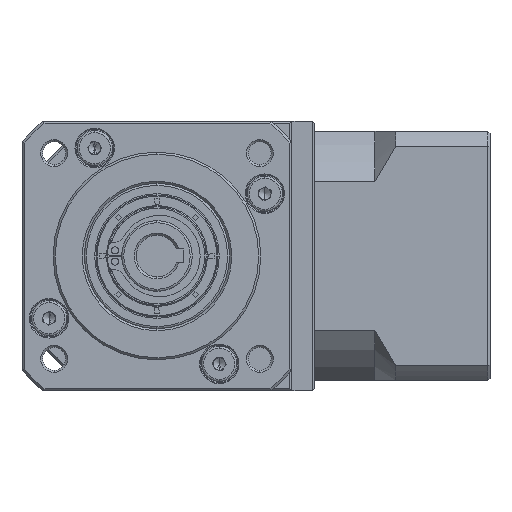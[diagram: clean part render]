
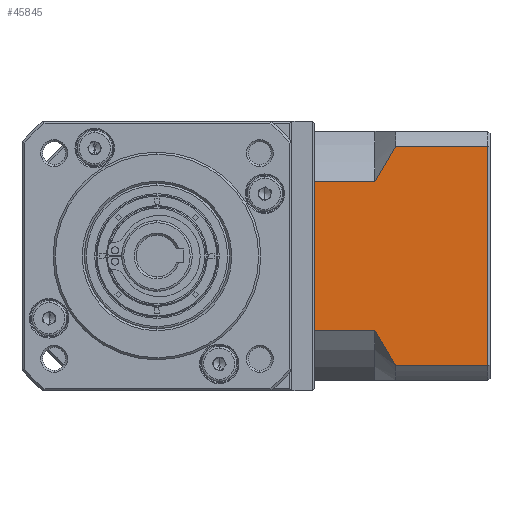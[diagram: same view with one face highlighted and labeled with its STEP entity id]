
A CAD part, left-side view. The second image highlights one B-rep face of the part: STEP entity #45845.
In plain terms, the highlighted planar face has unit normal (-1, 0, 0).
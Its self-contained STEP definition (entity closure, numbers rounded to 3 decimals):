
#431 = VERTEX_POINT ( 'NONE', #102921 ) ;
#2982 = VERTEX_POINT ( 'NONE', #44927 ) ;
#3499 = ORIENTED_EDGE ( 'NONE', *, *, #84054, .F. ) ;
#5453 = VECTOR ( 'NONE', #119927, 1000. ) ;
#6574 = VERTEX_POINT ( 'NONE', #84144 ) ;
#8297 = CARTESIAN_POINT ( 'NONE',  ( 16.666, -15.143, 137.798 ) ) ;
#8868 = VECTOR ( 'NONE', #128500, 1000. ) ;
#11642 = CARTESIAN_POINT ( 'NONE',  ( 16.666, -11.042, 94.672 ) ) ;
#12702 = CARTESIAN_POINT ( 'NONE',  ( 16.666, -14.267, 88.985 ) ) ;
#14289 = EDGE_CURVE ( 'NONE', #26192, #6574, #124365, .T. ) ;
#20652 = CARTESIAN_POINT ( 'NONE',  ( 16.666, -14.27, 136.419 ) ) ;
#21806 = CARTESIAN_POINT ( 'NONE',  ( 16.666, -38.242, 139.158 ) ) ;
#22446 = ORIENTED_EDGE ( 'NONE', *, *, #108829, .T. ) ;
#22492 = AXIS2_PLACEMENT_3D ( 'NONE', #97960, #24676, #110153 ) ;
#24676 = DIRECTION ( 'NONE',  ( 1., 0., 0. ) ) ;
#25050 = CARTESIAN_POINT ( 'NONE',  ( 16.666, -16.042, 86.242 ) ) ;
#26192 = VERTEX_POINT ( 'NONE', #82186 ) ;
#26840 = VERTEX_POINT ( 'NONE', #85619 ) ;
#30711 = VECTOR ( 'NONE', #80019, 1000. ) ;
#31903 = CARTESIAN_POINT ( 'NONE',  ( 16.666, -11.042, 86.242 ) ) ;
#32980 = CARTESIAN_POINT ( 'NONE',  ( 16.666, -11.79, 132.18 ) ) ;
#35136 = B_SPLINE_CURVE_WITH_KNOTS ( 'NONE', 3,
 ( #11642, #48035, #86010, #12702, #98331, #25050 ),
 .UNSPECIFIED., .F., .F.,
 ( 4, 2, 4 ),
 ( 0.1, 0.104, 0.109 ),
 .UNSPECIFIED. ) ;
#36295 = DIRECTION ( 'NONE',  ( 0., -1., 0. ) ) ;
#42250 = VECTOR ( 'NONE', #36295, 1000. ) ;
#44192 = DIRECTION ( 'NONE',  ( 0., 1., 0. ) ) ;
#44927 = CARTESIAN_POINT ( 'NONE',  ( 16.666, -16.042, 86.242 ) ) ;
#44953 = VECTOR ( 'NONE', #127693, 1000. ) ;
#45252 = EDGE_CURVE ( 'NONE', #148214, #2982, #120501, .T. ) ;
#45803 = ORIENTED_EDGE ( 'NONE', *, *, #64434, .F. ) ;
#45845 = ADVANCED_FACE ( 'NONE', ( #85775 ), #109639, .F. ) ;
#48035 = CARTESIAN_POINT ( 'NONE',  ( 16.666, -11.793, 93.216 ) ) ;
#56358 = ORIENTED_EDGE ( 'NONE', *, *, #89796, .T. ) ;
#58088 = EDGE_CURVE ( 'NONE', #26192, #2982, #35136, .T. ) ;
#60778 = EDGE_CURVE ( 'NONE', #153550, #6574, #89017, .T. ) ;
#64434 = EDGE_CURVE ( 'NONE', #26840, #111536, #135892, .T. ) ;
#64913 = B_SPLINE_CURVE_WITH_KNOTS ( 'NONE', 3,
 ( #81583, #8297, #20652, #106094, #32980, #118424 ),
 .UNSPECIFIED., .F., .F.,
 ( 4, 2, 4 ),
 ( 0.052, 0.057, 0.062 ),
 .UNSPECIFIED. ) ;
#68245 = CARTESIAN_POINT ( 'NONE',  ( 16.666, -11.042, 94.672 ) ) ;
#68664 = CARTESIAN_POINT ( 'NONE',  ( 16.666, -38.242, 82.7 ) ) ;
#77094 = CARTESIAN_POINT ( 'NONE',  ( 16.666, -38.242, 86.242 ) ) ;
#80019 = DIRECTION ( 'NONE',  ( 0., 1., 0. ) ) ;
#81583 = CARTESIAN_POINT ( 'NONE',  ( 16.666, -16.042, 139.158 ) ) ;
#82186 = CARTESIAN_POINT ( 'NONE',  ( 16.666, -11.042, 94.672 ) ) ;
#84054 = EDGE_CURVE ( 'NONE', #153550, #431, #99258, .T. ) ;
#84144 = CARTESIAN_POINT ( 'NONE',  ( 16.666, 3.458, 94.672 ) ) ;
#84230 = VECTOR ( 'NONE', #44192, 1000. ) ;
#85619 = CARTESIAN_POINT ( 'NONE',  ( 16.666, -16.042, 139.158 ) ) ;
#85775 = FACE_OUTER_BOUND ( 'NONE', #128667, .T. ) ;
#86010 = CARTESIAN_POINT ( 'NONE',  ( 16.666, -12.593, 91.79 ) ) ;
#89017 = LINE ( 'NONE', #115444, #44953 ) ;
#89796 = EDGE_CURVE ( 'NONE', #148214, #111536, #102677, .T. ) ;
#97960 = CARTESIAN_POINT ( 'NONE',  ( 16.666, -38.742, 82.7 ) ) ;
#98331 = CARTESIAN_POINT ( 'NONE',  ( 16.666, -15.141, 87.605 ) ) ;
#99258 = LINE ( 'NONE', #133770, #5453 ) ;
#102677 = LINE ( 'NONE', #68664, #8868 ) ;
#102921 = CARTESIAN_POINT ( 'NONE',  ( 16.666, -11.042, 130.728 ) ) ;
#106094 = CARTESIAN_POINT ( 'NONE',  ( 16.666, -12.594, 133.611 ) ) ;
#107510 = ORIENTED_EDGE ( 'NONE', *, *, #45252, .F. ) ;
#108829 = EDGE_CURVE ( 'NONE', #26840, #431, #64913, .T. ) ;
#109454 = CARTESIAN_POINT ( 'NONE',  ( 16.666, -11.042, 139.158 ) ) ;
#109639 = PLANE ( 'NONE',  #22492 ) ;
#110153 = DIRECTION ( 'NONE',  ( 0., 1., 0. ) ) ;
#111536 = VERTEX_POINT ( 'NONE', #21806 ) ;
#115444 = CARTESIAN_POINT ( 'NONE',  ( 16.666, 3.458, 82.7 ) ) ;
#118424 = CARTESIAN_POINT ( 'NONE',  ( 16.666, -11.042, 130.728 ) ) ;
#119927 = DIRECTION ( 'NONE',  ( 0., -1., 0. ) ) ;
#120501 = LINE ( 'NONE', #31903, #84230 ) ;
#121150 = ORIENTED_EDGE ( 'NONE', *, *, #60778, .T. ) ;
#124365 = LINE ( 'NONE', #68245, #30711 ) ;
#127693 = DIRECTION ( 'NONE',  ( 0., 0., -1. ) ) ;
#128500 = DIRECTION ( 'NONE',  ( 0., 0., 1. ) ) ;
#128667 = EDGE_LOOP ( 'NONE', ( #107510, #56358, #45803, #22446, #3499, #121150, #143067, #138694 ) ) ;
#133770 = CARTESIAN_POINT ( 'NONE',  ( 16.666, -11.042, 130.728 ) ) ;
#135892 = LINE ( 'NONE', #109454, #42250 ) ;
#138694 = ORIENTED_EDGE ( 'NONE', *, *, #58088, .T. ) ;
#140403 = CARTESIAN_POINT ( 'NONE',  ( 16.666, 3.458, 130.728 ) ) ;
#143067 = ORIENTED_EDGE ( 'NONE', *, *, #14289, .F. ) ;
#148214 = VERTEX_POINT ( 'NONE', #77094 ) ;
#153550 = VERTEX_POINT ( 'NONE', #140403 ) ;
